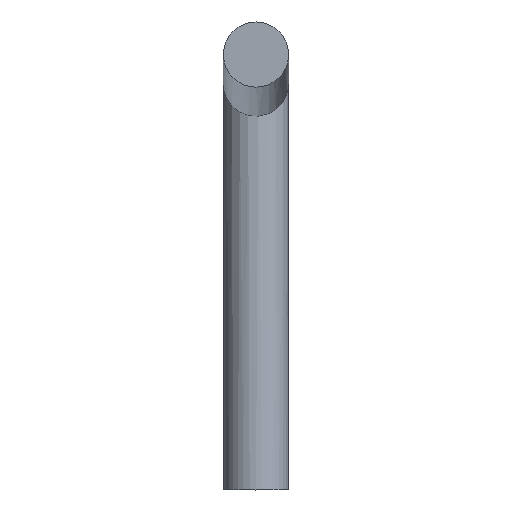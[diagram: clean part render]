
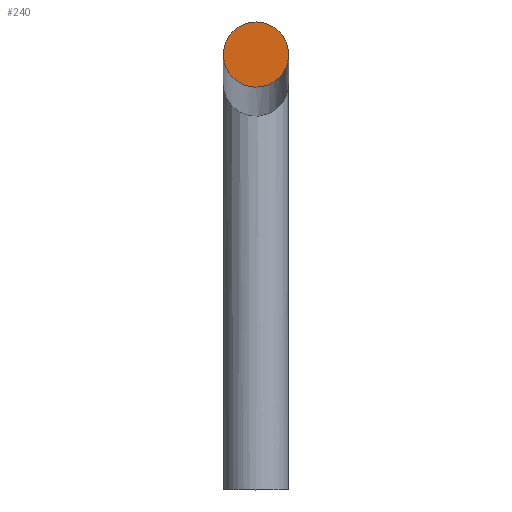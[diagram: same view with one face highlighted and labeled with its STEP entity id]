
A CAD part, top view. The second image highlights one B-rep face of the part: STEP entity #240.
In plain terms, the highlighted planar face has unit normal (0, 0, 1).
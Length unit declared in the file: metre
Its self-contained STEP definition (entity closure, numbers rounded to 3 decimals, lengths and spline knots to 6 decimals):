
#5 = CARTESIAN_POINT('', (0.000321, 0, 0.082));
#6 = VERTEX_POINT('', #5);
#7 = CARTESIAN_POINT('', (0, 0., 0.082));
#8 = VERTEX_POINT('', #7);
#32 = DIRECTION('', (1, 0., 0));
#33 = DIRECTION('', (0, -0, 1));
#34 = CARTESIAN_POINT('', (0.000161, 0., 0.082));
#35 = AXIS2_PLACEMENT_3D('', #34, #33, #32);
#36 = CIRCLE('', #35, 0.000161);
#37 = DIRECTION('', (-1, 0., 0));
#38 = DIRECTION('', (0, -0, 1));
#39 = CARTESIAN_POINT('', (0.00016, 0., 0.082));
#40 = AXIS2_PLACEMENT_3D('', #39, #38, #37);
#41 = CIRCLE('', #40, 0.00016);
#184 = EDGE_CURVE('', #6, #8, #36, .T.);
#185 = EDGE_CURVE('', #8, #6, #41, .T.);
#206 = CARTESIAN_POINT('', (0, 0, 0.082));
#207 = DIRECTION('', (0, -0, 1));
#208 = AXIS2_PLACEMENT_3D('', #206, #207, $);
#209 = PLANE('', #208);
#236 = ORIENTED_EDGE('', *, *, #184, .T.);
#237 = ORIENTED_EDGE('', *, *, #185, .T.);
#238 = EDGE_LOOP('', (#236, #237));
#239 = FACE_BOUND('', #238, .T.);
#240 = ADVANCED_FACE('', (#239), #209, .T.);
